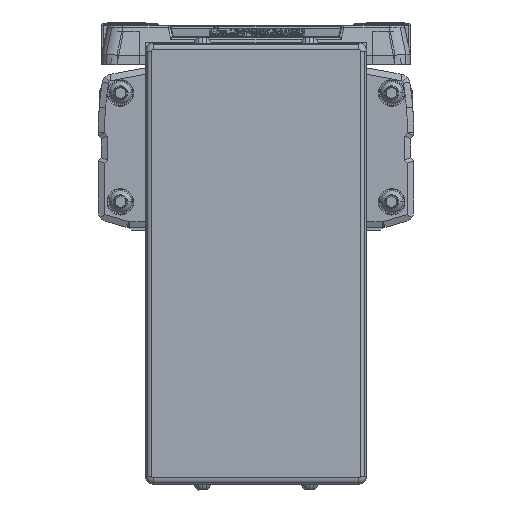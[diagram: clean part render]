
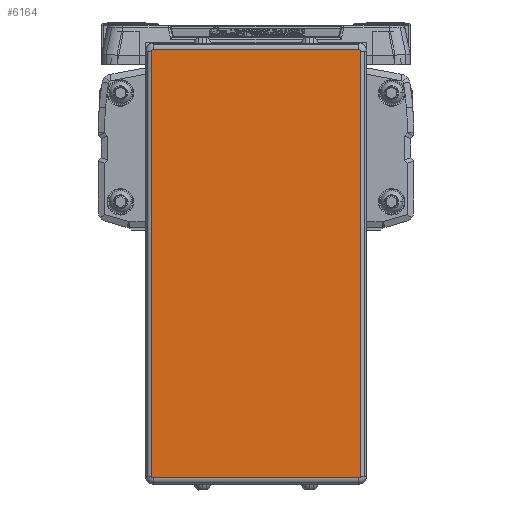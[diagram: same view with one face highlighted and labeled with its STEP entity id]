
A CAD part, left-side view. The second image highlights one B-rep face of the part: STEP entity #6164.
In plain terms, the highlighted planar face has unit normal (-1, 0, 0).
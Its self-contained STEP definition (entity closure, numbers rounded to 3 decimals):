
#6164=ADVANCED_FACE('',(#12519),#12520,.F.);
#12519=FACE_OUTER_BOUND('',#19530,.T.);
#12520=PLANE('',#19531);
#19530=EDGE_LOOP('',(#37202,#37203,#37204,#37205,#37206,#37207,#37208,#37209));
#19531=AXIS2_PLACEMENT_3D('',#37210,#37211,#37212);
#37202=ORIENTED_EDGE('',*,*,#43258,.T.);
#37203=ORIENTED_EDGE('',*,*,#42476,.T.);
#37204=ORIENTED_EDGE('',*,*,#45176,.T.);
#37205=ORIENTED_EDGE('',*,*,#42965,.T.);
#37206=ORIENTED_EDGE('',*,*,#43831,.T.);
#37207=ORIENTED_EDGE('',*,*,#42931,.T.);
#37208=ORIENTED_EDGE('',*,*,#40217,.T.);
#37209=ORIENTED_EDGE('',*,*,#45696,.T.);
#37210=CARTESIAN_POINT('',(-616.0,0.,-41.6));
#37211=DIRECTION('',(1.0,0.,0.));
#37212=DIRECTION('',(0.,0.,1.0));
#40217=EDGE_CURVE('',#48664,#48662,#48665,.T.);
#42476=EDGE_CURVE('',#52269,#52266,#52270,.T.);
#42931=EDGE_CURVE('',#52938,#48664,#52939,.T.);
#42965=EDGE_CURVE('',#52993,#52990,#52994,.T.);
#43258=EDGE_CURVE('',#53390,#52269,#53391,.T.);
#43831=EDGE_CURVE('',#52990,#52938,#54153,.T.);
#45176=EDGE_CURVE('',#52266,#52993,#55804,.T.);
#45696=EDGE_CURVE('',#48662,#53390,#56371,.T.);
#48662=VERTEX_POINT('',#60329);
#48664=VERTEX_POINT('',#60331);
#48665=LINE('',#60332,#60333);
#52266=VERTEX_POINT('',#65427);
#52269=VERTEX_POINT('',#65430);
#52270=CIRCLE('',#65431,0.5);
#52938=VERTEX_POINT('',#66349);
#52939=CIRCLE('',#66350,0.5);
#52990=VERTEX_POINT('',#66419);
#52993=VERTEX_POINT('',#66422);
#52994=CIRCLE('',#66423,0.5);
#53390=VERTEX_POINT('',#66969);
#53391=LINE('',#66970,#66971);
#54153=LINE('',#67975,#67976);
#55804=LINE('',#70241,#70242);
#56371=CIRCLE('',#70987,0.5);
#60329=CARTESIAN_POINT('',(-616.0,-32.55,-109.5));
#60331=CARTESIAN_POINT('',(-616.0,32.55,-109.5));
#60332=CARTESIAN_POINT('',(-616.0,0.,-109.5));
#60333=VECTOR('',#73470,10.0);
#65427=CARTESIAN_POINT('',(-616.,-32.55,26.3));
#65430=CARTESIAN_POINT('',(-616.,-33.05,25.8));
#65431=AXIS2_PLACEMENT_3D('',#76696,#76697,#76698);
#66349=CARTESIAN_POINT('',(-616.0,33.05,-109.));
#66350=AXIS2_PLACEMENT_3D('',#77336,#77337,#77338);
#66419=CARTESIAN_POINT('',(-616.,33.05,25.8));
#66422=CARTESIAN_POINT('',(-616.,32.55,26.3));
#66423=AXIS2_PLACEMENT_3D('',#77378,#77379,#77380);
#66969=CARTESIAN_POINT('',(-616.0,-33.05,-109.));
#66970=CARTESIAN_POINT('',(-616.,-33.05,-41.6));
#66971=VECTOR('',#77727,10.0);
#67975=CARTESIAN_POINT('',(-616.0,33.05,-41.6));
#67976=VECTOR('',#78438,10.0);
#70241=CARTESIAN_POINT('',(-616.,0.,26.3));
#70242=VECTOR('',#79861,10.0);
#70987=AXIS2_PLACEMENT_3D('',#80276,#80277,#80278);
#73470=DIRECTION('',(0.,-1.0,0.));
#76696=CARTESIAN_POINT('',(-616.,-32.55,25.8));
#76697=DIRECTION('',(-1.0,0.,0.));
#76698=DIRECTION('',(0.,-0.707,0.707));
#77336=CARTESIAN_POINT('',(-616.0,32.55,-109.));
#77337=DIRECTION('',(-1.0,0.,0.));
#77338=DIRECTION('',(0.,0.707,-0.707));
#77378=CARTESIAN_POINT('',(-616.,32.55,25.8));
#77379=DIRECTION('',(-1.0,0.,0.));
#77380=DIRECTION('',(0.,0.707,0.707));
#77727=DIRECTION('',(0.,0.,1.0));
#78438=DIRECTION('',(0.,0.,-1.0));
#79861=DIRECTION('',(0.,1.0,0.));
#80276=CARTESIAN_POINT('',(-616.0,-32.55,-109.));
#80277=DIRECTION('',(-1.0,0.,0.));
#80278=DIRECTION('',(0.,-0.707,-0.707));
